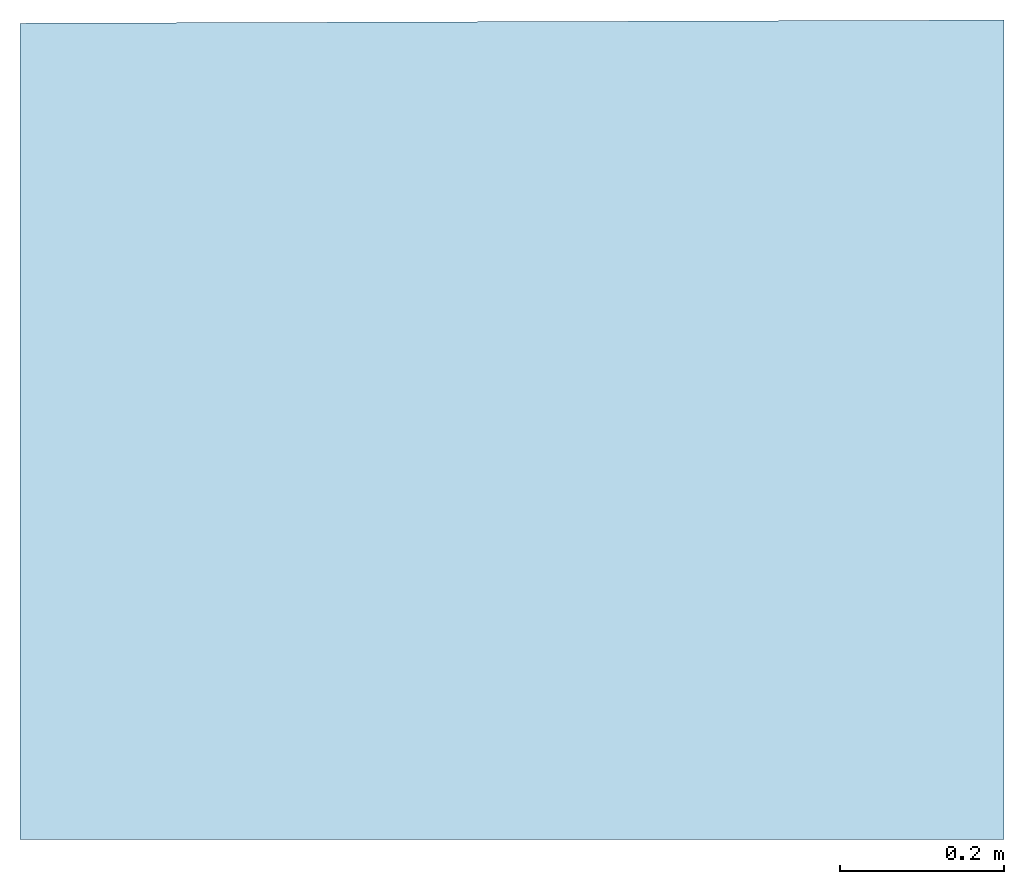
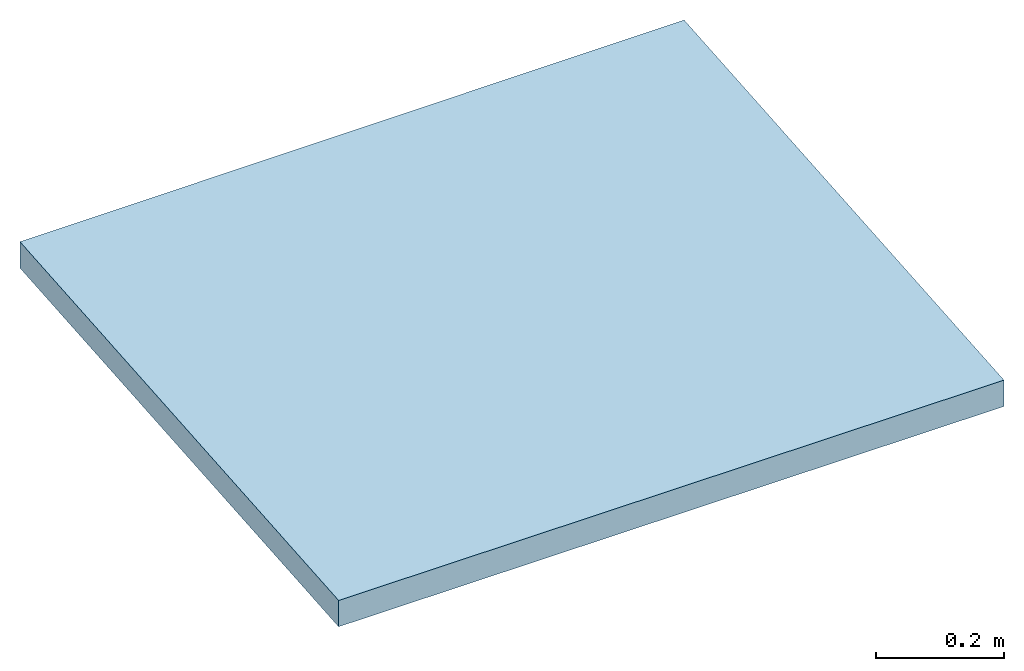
# One storey: 1 slab.
"""IFC2X3 building model written with IfcOpenShell, lengths in millimetres."""

import ifcopenshell
import ifcopenshell.guid

model = None  # the IFC model being written
_history = None  # IfcOwnerHistory: only IFC2X3 demands one
_inside = {}  # id of a spatial element -> (the spatial element, [elements in it])
_under = {}  # id of a project, library or spatial element -> (it, [spatial elements below it])
_declared = {}  # id of a project -> (the project, [libraries it declares])
_typed = {}  # id of a type object -> (the type object, [elements of that type])
_made_of = {}  # id of a material, layer set ... -> (it, [elements and type objects made of it])


def new_model(schema):
    """Start an empty IFC model of exactly this schema.

    Asked for "IFC4X3", IfcOpenShell would pick the latest addendum, in which some entities
    have other attributes; the version numbers below select the first issue.
    IFC2X3 requires an IfcOwnerHistory on every rooted entity: one is made here for all.
    """
    global model, _history
    if schema == "IFC4X3":
        model = ifcopenshell.file(schema_version=(4, 3, 0, 0))
    else:
        model = ifcopenshell.file(schema=schema)
    _inside.clear()
    _under.clear()
    _declared.clear()
    _typed.clear()
    _made_of.clear()
    _history = None
    if model.schema == "IFC2X3":
        org = make("IfcOrganization", Name="unknown")
        user = make(
            "IfcPersonAndOrganization",
            ThePerson=make("IfcPerson", FamilyName="unknown"),
            TheOrganization=org,
        )
        app = make(
            "IfcApplication",
            ApplicationDeveloper=org,
            Version="unknown",
            ApplicationFullName="unknown",
            ApplicationIdentifier="unknown",
        )
        _history = make(
            "IfcOwnerHistory",
            OwningUser=user,
            OwningApplication=app,
            ChangeAction="ADDED",
            CreationDate=0,
        )
    return model


def make(cls, **values):
    """One entity of the class cls with the attributes given. An attribute that is None is left unset."""
    return model.create_entity(
        cls, **{name: value for name, value in values.items() if value is not None}
    )


def entity(cls, *values):
    """Any entity or typed value of the class cls, its attributes in the order of the schema. None: left unset."""
    e = model.create_entity(cls)
    for i, value in enumerate(values):
        if value is not None:
            e[i] = value
    return e


def rooted(cls, **values):
    """An entity with a GlobalId (a new one), such as an element, a storey or a relation."""
    return make(cls, GlobalId=ifcopenshell.guid.new(), OwnerHistory=_history, **values)


def si_unit(unit_type, name, prefix=None):
    """IfcSIUnit, for example si_unit("LENGTHUNIT", "METRE", prefix="MILLI")."""
    return make("IfcSIUnit", UnitType=unit_type, Prefix=prefix, Name=name)


def converted_unit(unit_type, name, factor, base, dimensions=None, offset=None):
    """IfcConversionBasedUnit, such as the inch: factor (a typed value) times the base unit."""
    return make(
        "IfcConversionBasedUnit"
        if offset is None
        else "IfcConversionBasedUnitWithOffset",
        ConversionOffset=offset,
        Dimensions=None
        if dimensions is None
        else entity("IfcDimensionalExponents", *dimensions),
        UnitType=unit_type,
        Name=name,
        ConversionFactor=make(
            "IfcMeasureWithUnit", ValueComponent=factor, UnitComponent=base
        ),
    )


def derived_unit(unit_type, elements):
    """IfcDerivedUnit: a product of units, each with its exponent."""
    return make(
        "IfcDerivedUnit",
        Elements=[
            make("IfcDerivedUnitElement", Unit=unit, Exponent=power)
            for unit, power in elements
        ],
        UnitType=unit_type,
    )


def money_unit(currency):
    """IfcMonetaryUnit."""
    return make("IfcMonetaryUnit", Currency=currency)


def assignment(units):
    """IfcUnitAssignment: the units of a project."""
    return None if units is None else make("IfcUnitAssignment", Units=units)


def point(xyz):
    """IfcCartesianPoint."""
    return None if xyz is None else make("IfcCartesianPoint", Coordinates=xyz)


def direction(xyz):
    """IfcDirection."""
    return None if xyz is None else make("IfcDirection", DirectionRatios=xyz)


def frame(location, z_axis=None, x_axis=None):
    """IfcAxis2Placement3D, a coordinate frame: its origin and axes. An axis left out is left unset."""
    return make(
        "IfcAxis2Placement3D",
        Location=point(location),
        Axis=direction(z_axis),
        RefDirection=direction(x_axis),
    )


def origin_with_axes():
    """The frame at (0, 0, 0) with the z axis (0, 0, 1) and the x axis (1, 0, 0) written out."""
    return frame((0.0, 0.0, 0.0), z_axis=(0.0, 0.0, 1.0), x_axis=(1.0, 0.0, 0.0))


def place(relative_to, where):
    """IfcLocalPlacement: puts the frame where relative to a parent placement (None: the world)."""
    return make(
        "IfcLocalPlacement", PlacementRelTo=relative_to, RelativePlacement=where
    )


def context(
    kind, dimensions, precision=None, world=None, true_north=None, identifier=None
):
    """IfcGeometricRepresentationContext, for example the 3D "Model" context."""
    return make(
        "IfcGeometricRepresentationContext",
        ContextIdentifier=identifier,
        ContextType=kind,
        CoordinateSpaceDimension=dimensions,
        Precision=precision,
        WorldCoordinateSystem=world,
        TrueNorth=true_north,
    )


def subcontext(parent, identifier, kind, view, scale=None):
    """IfcGeometricRepresentationSubContext, for example "Body" below "Model"."""
    return make(
        "IfcGeometricRepresentationSubContext",
        ContextIdentifier=identifier,
        ContextType=kind,
        ParentContext=parent,
        TargetScale=scale,
        TargetView=view,
    )


def project(units=None, contexts=None):
    """IfcProject with its units and contexts."""
    return rooted(
        "IfcProject",
        Name="project",
        RepresentationContexts=contexts,
        UnitsInContext=assignment(units),
    )


def spatial(cls, under=None, at=None, **own):
    """A site, building, storey or space (cls), placed at a placement, below another one or the project."""
    s = rooted(cls, ObjectPlacement=at, **own)
    if under is not None:
        _under.setdefault(under.id(), (under, []))[1].append(s)
    return s


def polyline(points):
    """IfcPolyline through the points."""
    return make("IfcPolyline", Points=[point(p) for p in points])


def outline(outer, holes=None, kind="AREA"):
    """IfcArbitraryClosedProfileDef: a profile drawn as a closed curve; with holes, ...WithVoids."""
    if holes is None:
        return make("IfcArbitraryClosedProfileDef", ProfileType=kind, OuterCurve=outer)
    return make(
        "IfcArbitraryProfileDefWithVoids",
        ProfileType=kind,
        OuterCurve=outer,
        InnerCurves=holes,
    )


def extrude(swept, where, along, depth):
    """IfcExtrudedAreaSolid: the profile swept, set in the frame where, extruded along a direction by depth."""
    return make(
        "IfcExtrudedAreaSolid",
        SweptArea=swept,
        Position=where,
        ExtrudedDirection=direction(along),
        Depth=depth,
    )


def shape(context_of_items, identifier, shape_type, items):
    """IfcShapeRepresentation: the items that make up one representation, for example the "Body"."""
    return make(
        "IfcShapeRepresentation",
        ContextOfItems=context_of_items,
        RepresentationIdentifier=identifier,
        RepresentationType=shape_type,
        Items=items,
    )


def material(Name=None, Category=None):
    """IfcMaterial."""
    return make("IfcMaterial", Name=Name, Category=Category)


def layer(
    of_material, thickness, ventilated=None, Name=None, Category=None, Priority=None
):
    """IfcMaterialLayer: one layer of a wall or slab, of a material (None: an air gap)."""
    return make(
        "IfcMaterialLayer",
        Material=of_material,
        LayerThickness=thickness,
        IsVentilated=ventilated,
        Name=Name,
        Category=Category,
        Priority=Priority,
    )


def layer_set(layers, Name=None):
    """IfcMaterialLayerSet."""
    return make("IfcMaterialLayerSet", MaterialLayers=layers, LayerSetName=Name)


def layer_usage(for_layer_set, set_direction, sense, offset, extent=None):
    """IfcMaterialLayerSetUsage: how a layer set lies in its element."""
    return make(
        "IfcMaterialLayerSetUsage",
        ForLayerSet=for_layer_set,
        LayerSetDirection=set_direction,
        DirectionSense=sense,
        OffsetFromReferenceLine=offset,
        ReferenceExtent=extent,
    )


def made_of(thing, what):
    """Note that an element or type object is made of a material, layer set ...; save() writes the relation."""
    if what is not None:
        _made_of.setdefault(what.id(), (what, []))[1].append(thing)
    return thing


def type_object(cls, material=None, **own):
    """A type object (cls), such as IfcWallType, which elements share."""
    return made_of(rooted(cls, **own), material)


def element(
    cls,
    number,
    at=None,
    inside=None,
    cuts=None,
    type_object=None,
    material=None,
    context=None,
    identifier="Body",
    shape_type=None,
    held_by="IfcProductDefinitionShape",
    body=None,
    shapes=None,
    **own,
):
    """One element of the class cls, such as IfcWall. Its Tag is "e" and its number.

    at: its placement. inside: the storey or other place that contains it. cuts: it is an
    opening in that element (IfcRelVoidsElement). A single representation is given by context,
    identifier, shape_type and body (its items); several are given by shapes. held_by: the class
    of the entity that holds the representations. save() writes the other relations.
    """
    e = rooted(cls, Tag="e%d" % number, ObjectPlacement=at, **own)
    if body is not None:
        shapes = [shape(context, identifier, shape_type, body)]
    if shapes is not None:
        e.Representation = make(held_by, Representations=shapes)
    if inside is not None:
        _inside.setdefault(inside.id(), (inside, []))[1].append(e)
    if cuts is not None:
        rooted(
            "IfcRelVoidsElement", RelatingBuildingElement=cuts, RelatedOpeningElement=e
        )
    if type_object is not None:
        _typed.setdefault(type_object.id(), (type_object, []))[1].append(e)
    return made_of(e, material)


def aggregate(whole, parts):
    """IfcRelAggregates: a whole, such as a stair, and the parts it consists of."""
    return rooted("IfcRelAggregates", RelatingObject=whole, RelatedObjects=parts)


def save(model, path):
    """Write the relations noted so far, then the file.

    IfcRelAggregates (storeys below a building ...), IfcRelContainedInSpatialStructure (elements
    in a storey), IfcRelDefinesByType, IfcRelAssociatesMaterial and IfcRelDeclares: one each for
    every whole, place, type object, material and project.
    """
    for whole, parts in _under.values():
        aggregate(whole, parts)
    for where, things in _inside.values():
        rooted(
            "IfcRelContainedInSpatialStructure",
            RelatedElements=things,
            RelatingStructure=where,
        )
    for kind, things in _typed.values():
        rooted("IfcRelDefinesByType", RelatedObjects=things, RelatingType=kind)
    for what, things in _made_of.values():
        rooted("IfcRelAssociatesMaterial", RelatedObjects=things, RelatingMaterial=what)
    for by, libraries in _declared.values():
        rooted("IfcRelDeclares", RelatingContext=by, RelatedDefinitions=libraries)
    model.write(path)


model = new_model("IFC2X3")

# Units and contexts
model_context = context("Model", 3, precision=0.01, world=origin_with_axes(), true_north=direction((0.0, 1.0)))
body_context = subcontext(model_context, "Body", "Model", "MODEL_VIEW")
ifc_project = project(units=[si_unit("LENGTHUNIT", "METRE", prefix="MILLI"), si_unit("AREAUNIT", "SQUARE_METRE"), si_unit("VOLUMEUNIT", "CUBIC_METRE"), converted_unit("PLANEANGLEUNIT", "DEGREE", entity("IfcPlaneAngleMeasure", 0.0174532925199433), si_unit("PLANEANGLEUNIT", "RADIAN"), dimensions=[0, 0, 0, 0, 0, 0, 0]), money_unit("USD"), converted_unit("TIMEUNIT", "Year", entity("IfcTimeMeasure", 31556926.0), si_unit("TIMEUNIT", "SECOND"), dimensions=[0, 0, 1, 0, 0, 0, 0]), si_unit("MASSUNIT", "GRAM", prefix="KILO"), si_unit("THERMODYNAMICTEMPERATUREUNIT", "DEGREE_CELSIUS"), si_unit("LUMINOUSINTENSITYUNIT", "LUMEN"), si_unit("ENERGYUNIT", "JOULE", prefix="MEGA"), derived_unit("THERMALCONDUCTANCEUNIT", [(si_unit("POWERUNIT", "WATT"), 1), (si_unit("LENGTHUNIT", "METRE"), -1), (si_unit("THERMODYNAMICTEMPERATUREUNIT", "KELVIN"), -1)]), derived_unit("SPECIFICHEATCAPACITYUNIT", [(si_unit("ENERGYUNIT", "JOULE"), 1), (si_unit("MASSUNIT", "GRAM", prefix="KILO"), -1), (si_unit("THERMODYNAMICTEMPERATUREUNIT", "KELVIN"), -1)]), derived_unit("MASSDENSITYUNIT", [(si_unit("MASSUNIT", "GRAM", prefix="KILO"), 1), (si_unit("VOLUMEUNIT", "CUBIC_METRE"), -1)])], contexts=[model_context])

# Site, building, storey
site_placement = place(None, origin_with_axes())
site = spatial("IfcSite", under=ifc_project, at=site_placement, Name="Site", CompositionType="ELEMENT")
building_placement = place(site_placement, origin_with_axes())
building = spatial("IfcBuilding", under=site, at=building_placement, Name="Building", CompositionType="ELEMENT")
storey_placement = place(building_placement, origin_with_axes())
storey = spatial("IfcBuildingStorey", under=building, at=storey_placement, Name="NÍVEL DA RUA", CompositionType="ELEMENT", Elevation=0.0)

# Slab
ifc_material = material(Name="_CONTRAPISO")
ifc_layer = layer(ifc_material, 50.0, ventilated="UNKNOWN")
ifc_layer_set = layer_set([ifc_layer], Name="_CONTRAPISO 50")
ifc_layer_usage = layer_usage(ifc_layer_set, "AXIS3", "NEGATIVE", 50.0)
slab_type = type_object("IfcSlabType", Name="_CONTRAPISO 50", PredefinedType="ROOF")
slab_placement = place(storey_placement, frame((229326.7921033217, -15080.19902426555, -29.80446795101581), z_axis=(0.0, 0.0, 1.0), x_axis=(-1.0, 0.0, 0.0)))
element("IfcSlab", 1, at=slab_placement, inside=storey, type_object=slab_type, material=ifc_layer_usage, Name="PISO EM CONCRETO DESEMPOLADO (PISO EXTERNO)", PredefinedType="ROOF", context=body_context, shape_type="SweptSolid", body=[
    extrude(outline(polyline([(0.0, -363.1895288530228), (0.0, -1366.442521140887), (1200.814485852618, -1362.438904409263), (1200.81448585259, -363.1895288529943), (0.0, -363.1895288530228)])), frame((0.0, 0.0, 0.0), z_axis=(0.0, 0.08047463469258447, 0.9967566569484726), x_axis=(1.0, 0.0, 0.0)), (0.0, -0.08047463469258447, 0.9967566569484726), 50.16269482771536),
])

save(model, "model.ifc")
